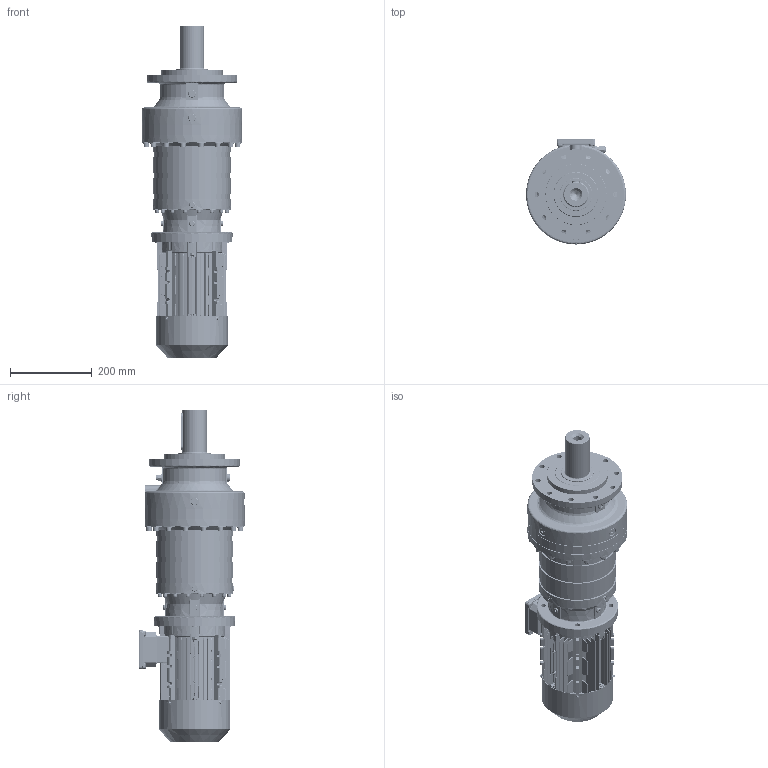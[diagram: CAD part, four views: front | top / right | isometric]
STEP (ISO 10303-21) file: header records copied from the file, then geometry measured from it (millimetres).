
FILE_DESCRIPTION (( 'STEP AP203' ), '1' );
FILE_NAME ('PVL-1504L-MX90L-4.STEP', '2019-05-13T09:37:57', ( '' ), ( '' ), 'SwSTEP 2.0', 'SolidWorks 2012', '' );
FILE_SCHEMA (( 'CONFIG_CONTROL_DESIGN' ));
Products named in the file (30): MX3-90L_B5; PVL-1504L-MX90L-4; hexagon nuts grade c gb_GB_FASTENER_NUT_SNC1 M6-N_2; IE3 90L  oil seal_2; hexagon socket head cap screws gb_GB_FASTENER_SCREWS_HSHCS M6X40-N; IE3 90L flangeB5; cross recessed pan head screws gb_GB_CROSS_SCREWS_TYPE1 M5X10-10  H type-N_2; cross recessed pan head screws gb_GB_CROSS_SCREWS_TYPE1 M4X5-5  H type-N_2; IE3 90L cable glandsM16_2; plain washers-n series-grade a gb_GB_FASTENER_WASHER_PWNA 4_2; IE3 90L grouding mark_2; circlips for shaft--type a large gb_GB_CONNECTING_PIECE_RING_RRA 19_2; IE3 90L flange_2; spring lock washers--normal type gb_GB_FASTENER_WASHER_SW 6_2; hexagon socket head cap screws gb_GB_FASTENER_SCREWS_HSHCS M6X30-N_2; cross recessed pan head tapping screws gb_GB_CROSS_SCREWS_TYPE128 ST4.2X9.5 H C-N_2; hexagon flange head tapping screws gb_GB_SQUARE_AND_HEXAGON_TYPE137 ST4.2X9.5 F-N_2; IE3 90L fan cover_2; IE3 90L terminal box_2; plain parallel keys_GB_CONNECTING_PIECE_KEYS_CSK 8X40_2; IE3 90L terminal box cover_2; IE3 90L casing_2; PNL_1504L_0_0_A09_B5_ML13A_FL3A_0_0_0_0_0_0_0_0_0_0_0_M1; IE3 90L rotor_2; IE3 90L fan_2; EK1504L_Varsayìlan; FL3A_Varsayìlan; ML13A_Varsayìlan; 1190B5_Varsayìlan; P15_Varsayìlan
Assembly tree (58 placements, depth 3):
  PVL-1504L-MX90L-4
    PNL_1504L_0_0_A09_B5_ML13A_FL3A_0_0_0_0_0_0_0_0_0_0_0_M1
      P15_Varsayìlan
      1190B5_Varsayìlan
      ML13A_Varsayìlan
      EK1504L_Varsayìlan
      FL3A_Varsayìlan
    MX3-90L_B5
      IE3 90L casing_2
      IE3 90L rotor_2
      IE3 90L fan_2
      IE3 90L fan cover_2
      plain parallel keys_GB_CONNECTING_PIECE_KEYS_CSK 8X40_2
      IE3 90L terminal box_2
      IE3 90L terminal box cover_2
      spring lock washers--normal type gb_GB_FASTENER_WASHER_SW 6_2  x8
      cross recessed pan head tapping screws gb_GB_CROSS_SCREWS_TYPE128 ST4.2X9.5 H C-N_2  x4
      hexagon flange head tapping screws gb_GB_SQUARE_AND_HEXAGON_TYPE137 ST4.2X9.5 F-N_2  x4
      hexagon socket head cap screws gb_GB_FASTENER_SCREWS_HSHCS M6X30-N_2  x4
      IE3 90L flange_2
      circlips for shaft--type a large gb_GB_CONNECTING_PIECE_RING_RRA 19_2
      IE3 90L grouding mark_2
      plain washers-n series-grade a gb_GB_FASTENER_WASHER_PWNA 4_2
      cross recessed pan head screws gb_GB_CROSS_SCREWS_TYPE1 M4X5-5  H type-N_2
      cross recessed pan head screws gb_GB_CROSS_SCREWS_TYPE1 M5X10-10  H type-N_2  x4
      IE3 90L cable glandsM16_2  x2
      IE3 90L  oil seal_2
      hexagon nuts grade c gb_GB_FASTENER_NUT_SNC1 M6-N_2  x7
      IE3 90L flangeB5
      hexagon socket head cap screws gb_GB_FASTENER_SCREWS_HSHCS M6X40-N  x4
Bounding box: 245 x 258 x 814.1 mm (x, y, z)
Volume: 14203429.2 mm3; surface area: 1597171.9 mm2
Topology: 60 solids, 60 shells, 6372 faces, 16312 edges, 10091 vertices
Faces by surface type: plane 2460, cylinder 2037, bspline 1265, cone 456, sphere 100, torus 54
Entity records: 224882 total; most frequent: CARTESIAN_POINT 90049, ORIENTED_EDGE 29290, DIRECTION 24884, EDGE_CURVE 14645, AXIS2_PLACEMENT_3D 9252, VERTEX_POINT 9167, LINE 6380, VECTOR 6380
